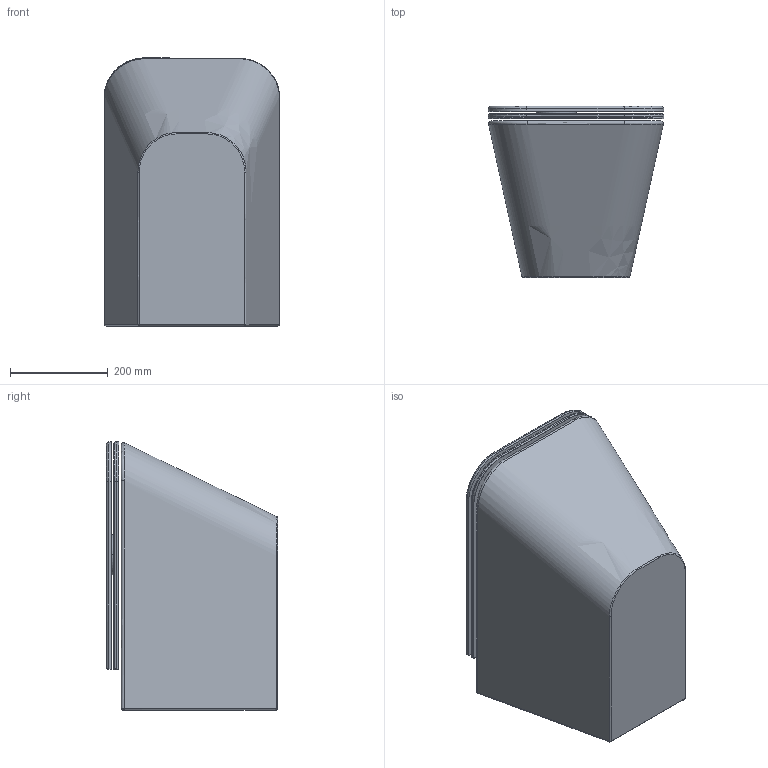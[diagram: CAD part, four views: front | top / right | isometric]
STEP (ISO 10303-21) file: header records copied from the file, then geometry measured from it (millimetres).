
FILE_DESCRIPTION (( 'STEP AP203' ), '1' );
FILE_NAME ('BUVKSPE00000.STEP', '2019-09-05T10:13:04', ( '' ), ( '' ), 'SwSTEP 2.0', 'SolidWorks 2019', '' );
FILE_SCHEMA (( 'CONFIG_CONTROL_DESIGN' ));
Length unit declared in the file: millimetre
Products named in the file (3): BUILD SEDILE; BUVKSPE00000; BUILD WC S
Assembly tree (2 placements, depth 2):
  BUVKSPE00000
    BUILD WC S
    BUILD SEDILE
Bounding box: 359.46 x 350 x 548.48 mm (x, y, z)
Volume: 39407925.8 mm3; surface area: 1869135.7 mm2
Topology: 2 solids, 3 shells, 96 faces, 223 edges, 140 vertices
Faces by surface type: bspline 33, plane 26, cylinder 23, torus 8, cone 4, sphere 2
Entity records: 7600 total; most frequent: CARTESIAN_POINT 5329, ORIENTED_EDGE 442, DIRECTION 357, EDGE_CURVE 221, AXIS2_PLACEMENT_3D 143, VERTEX_POINT 140, EDGE_LOOP 105, FACE_OUTER_BOUND 96
